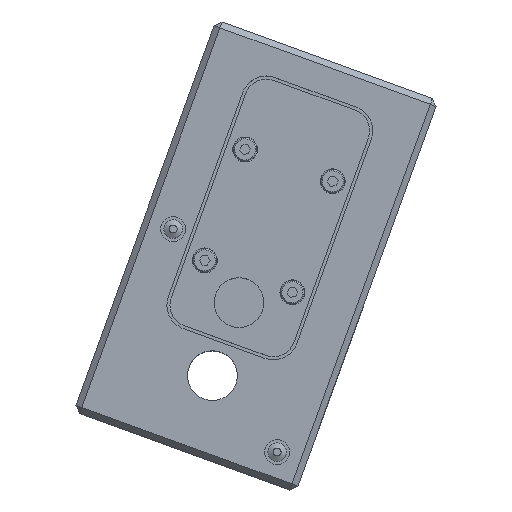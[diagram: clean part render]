
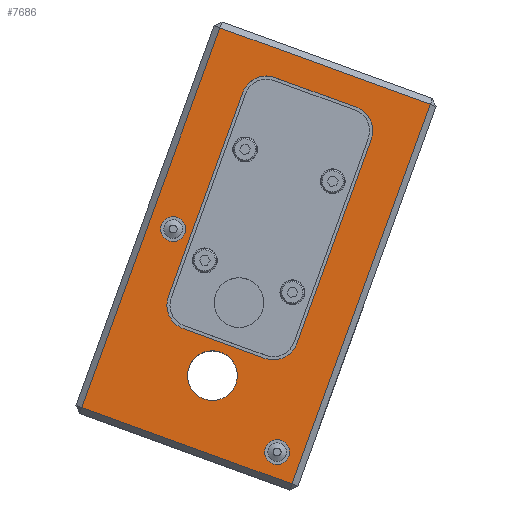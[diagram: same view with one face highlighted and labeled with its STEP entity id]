
A CAD part, top view. The second image highlights one B-rep face of the part: STEP entity #7686.
In plain terms, the highlighted planar face has unit normal (0, 0, 1).
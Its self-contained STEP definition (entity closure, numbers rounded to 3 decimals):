
#5298=LINE('',#18218,#6440);
#5299=LINE('',#18221,#6441);
#5300=LINE('',#18223,#6442);
#5301=LINE('',#18225,#6443);
#5302=LINE('',#18235,#6444);
#5303=LINE('',#18239,#6445);
#5304=LINE('',#18243,#6446);
#5305=LINE('',#18247,#6447);
#6440=VECTOR('',#15777,1.);
#6441=VECTOR('',#15778,1.);
#6442=VECTOR('',#15779,1.);
#6443=VECTOR('',#15780,1.);
#6444=VECTOR('',#15789,1.);
#6445=VECTOR('',#15792,1.);
#6446=VECTOR('',#15795,1.);
#6447=VECTOR('',#15798,1.);
#7686=ADVANCED_FACE('',(#8716,#8717,#8718,#8719,#8720),#8280,.T.);
#8280=PLANE('',#15151);
#8716=FACE_BOUND('',#8934,.T.);
#8717=FACE_BOUND('',#8935,.T.);
#8718=FACE_BOUND('',#8936,.T.);
#8719=FACE_BOUND('',#8937,.T.);
#8720=FACE_BOUND('',#8938,.T.);
#8934=EDGE_LOOP('',(#9672,#9673,#9674,#9675));
#8935=EDGE_LOOP('',(#9676));
#8936=EDGE_LOOP('',(#9677));
#8937=EDGE_LOOP('',(#9678));
#8938=EDGE_LOOP('',(#9679,#9680,#9681,#9682,#9683,#9684,#9685,#9686));
#9672=ORIENTED_EDGE('',*,*,#13580,.T.);
#9673=ORIENTED_EDGE('',*,*,#13581,.T.);
#9674=ORIENTED_EDGE('',*,*,#13582,.T.);
#9675=ORIENTED_EDGE('',*,*,#13583,.T.);
#9676=ORIENTED_EDGE('',*,*,#13584,.T.);
#9677=ORIENTED_EDGE('',*,*,#13585,.T.);
#9678=ORIENTED_EDGE('',*,*,#13586,.T.);
#9679=ORIENTED_EDGE('',*,*,#13587,.T.);
#9680=ORIENTED_EDGE('',*,*,#13588,.T.);
#9681=ORIENTED_EDGE('',*,*,#13589,.T.);
#9682=ORIENTED_EDGE('',*,*,#13590,.F.);
#9683=ORIENTED_EDGE('',*,*,#13591,.T.);
#9684=ORIENTED_EDGE('',*,*,#13592,.F.);
#9685=ORIENTED_EDGE('',*,*,#13593,.T.);
#9686=ORIENTED_EDGE('',*,*,#13594,.T.);
#12588=VERTEX_POINT('',#18219);
#12589=VERTEX_POINT('',#18220);
#12590=VERTEX_POINT('',#18222);
#12591=VERTEX_POINT('',#18224);
#12592=VERTEX_POINT('',#18227);
#12593=VERTEX_POINT('',#18229);
#12594=VERTEX_POINT('',#18231);
#12595=VERTEX_POINT('',#18233);
#12596=VERTEX_POINT('',#18234);
#12597=VERTEX_POINT('',#18236);
#12598=VERTEX_POINT('',#18238);
#12599=VERTEX_POINT('',#18240);
#12600=VERTEX_POINT('',#18242);
#12601=VERTEX_POINT('',#18244);
#12602=VERTEX_POINT('',#18246);
#13580=EDGE_CURVE('',#12588,#12589,#5298,.T.);
#13581=EDGE_CURVE('',#12589,#12590,#5299,.T.);
#13582=EDGE_CURVE('',#12590,#12591,#5300,.T.);
#13583=EDGE_CURVE('',#12591,#12588,#5301,.T.);
#13584=EDGE_CURVE('',#12592,#12592,#15030,.T.);
#13585=EDGE_CURVE('',#12593,#12593,#15031,.T.);
#13586=EDGE_CURVE('',#12594,#12594,#15032,.T.);
#13587=EDGE_CURVE('',#12595,#12596,#15033,.T.);
#13588=EDGE_CURVE('',#12596,#12597,#5302,.T.);
#13589=EDGE_CURVE('',#12597,#12598,#15034,.T.);
#13590=EDGE_CURVE('',#12599,#12598,#5303,.T.);
#13591=EDGE_CURVE('',#12599,#12600,#15035,.T.);
#13592=EDGE_CURVE('',#12601,#12600,#5304,.T.);
#13593=EDGE_CURVE('',#12601,#12602,#15036,.T.);
#13594=EDGE_CURVE('',#12602,#12595,#5305,.T.);
#15030=CIRCLE('',#15144,2.);
#15031=CIRCLE('',#15145,2.);
#15032=CIRCLE('',#15146,4.);
#15033=CIRCLE('',#15147,4.);
#15034=CIRCLE('',#15148,4.);
#15035=CIRCLE('',#15149,4.);
#15036=CIRCLE('',#15150,4.);
#15144=AXIS2_PLACEMENT_3D('',#18226,#15781,#15782);
#15145=AXIS2_PLACEMENT_3D('',#18228,#15783,#15784);
#15146=AXIS2_PLACEMENT_3D('',#18230,#15785,#15786);
#15147=AXIS2_PLACEMENT_3D('',#18232,#15787,#15788);
#15148=AXIS2_PLACEMENT_3D('',#18237,#15790,#15791);
#15149=AXIS2_PLACEMENT_3D('',#18241,#15793,#15794);
#15150=AXIS2_PLACEMENT_3D('',#18245,#15796,#15797);
#15151=AXIS2_PLACEMENT_3D('',#18248,#15799,#15800);
#15777=DIRECTION('',(-0.342,-0.94,0.));
#15778=DIRECTION('',(0.94,-0.342,0.));
#15779=DIRECTION('',(0.342,0.94,0.));
#15780=DIRECTION('',(-0.94,0.342,0.));
#15781=DIRECTION('',(0.,0.,-1.));
#15782=DIRECTION('',(-0.342,-0.94,0.));
#15783=DIRECTION('',(0.,0.,-1.));
#15784=DIRECTION('',(-0.342,-0.94,0.));
#15785=DIRECTION('',(0.,0.,-1.));
#15786=DIRECTION('',(-0.342,-0.94,0.));
#15787=DIRECTION('',(0.,0.,-1.));
#15788=DIRECTION('',(-0.342,-0.94,0.));
#15789=DIRECTION('',(0.94,-0.342,0.));
#15790=DIRECTION('',(0.,0.,-1.));
#15791=DIRECTION('',(-0.342,-0.94,0.));
#15792=DIRECTION('',(0.342,0.94,0.));
#15793=DIRECTION('',(0.,0.,-1.));
#15794=DIRECTION('',(-0.342,-0.94,0.));
#15795=DIRECTION('',(0.94,-0.342,0.));
#15796=DIRECTION('',(0.,0.,-1.));
#15797=DIRECTION('',(-0.342,-0.94,0.));
#15798=DIRECTION('',(0.342,0.94,0.));
#15799=DIRECTION('',(0.,0.,1.));
#15800=DIRECTION('',(0.342,0.94,0.));
#18218=CARTESIAN_POINT('',(-1809.237,689.702,20.));
#18219=CARTESIAN_POINT('',(-1798.122,720.242,20.));
#18220=CARTESIAN_POINT('',(-1820.353,659.161,20.));
#18221=CARTESIAN_POINT('',(-1803.438,653.005,20.));
#18222=CARTESIAN_POINT('',(-1786.524,646.849,20.));
#18223=CARTESIAN_POINT('',(-1775.408,677.389,20.));
#18224=CARTESIAN_POINT('',(-1764.293,707.929,20.));
#18225=CARTESIAN_POINT('',(-1781.207,714.085,20.));
#18226=CARTESIAN_POINT('',(-1805.649,687.864,20.));
#18227=CARTESIAN_POINT('',(-1806.334,685.984,20.));
#18228=CARTESIAN_POINT('',(-1788.915,651.976,20.));
#18229=CARTESIAN_POINT('',(-1789.599,650.096,20.));
#18230=CARTESIAN_POINT('',(-1799.334,664.281,20.));
#18231=CARTESIAN_POINT('',(-1800.702,660.523,20.));
#18232=CARTESIAN_POINT('',(-1790.692,708.492,20.));
#18233=CARTESIAN_POINT('',(-1794.451,709.86,20.));
#18234=CARTESIAN_POINT('',(-1789.324,712.251,20.));
#18235=CARTESIAN_POINT('',(-1789.324,712.251,20.));
#18236=CARTESIAN_POINT('',(-1776.168,707.462,20.));
#18237=CARTESIAN_POINT('',(-1777.536,703.704,20.));
#18238=CARTESIAN_POINT('',(-1773.778,702.336,20.));
#18239=CARTESIAN_POINT('',(-1785.748,669.446,20.));
#18240=CARTESIAN_POINT('',(-1785.748,669.446,20.));
#18241=CARTESIAN_POINT('',(-1789.507,670.814,20.));
#18242=CARTESIAN_POINT('',(-1790.875,667.056,20.));
#18243=CARTESIAN_POINT('',(-1804.031,671.844,20.));
#18244=CARTESIAN_POINT('',(-1804.031,671.844,20.));
#18245=CARTESIAN_POINT('',(-1802.663,675.603,20.));
#18246=CARTESIAN_POINT('',(-1806.422,676.971,20.));
#18247=CARTESIAN_POINT('',(-1806.422,676.971,20.));
#18248=CARTESIAN_POINT('',(-1792.323,683.545,20.));
